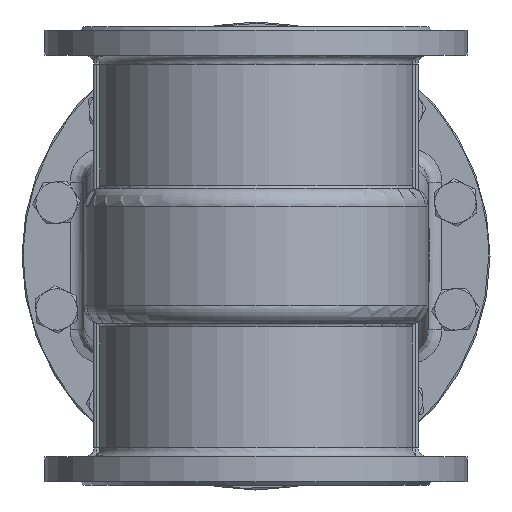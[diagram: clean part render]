
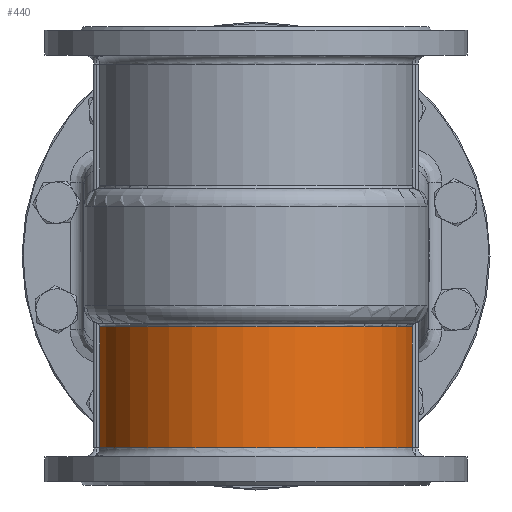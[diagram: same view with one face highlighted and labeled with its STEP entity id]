
A CAD part, front view. The second image highlights one B-rep face of the part: STEP entity #440.
In plain terms, the highlighted cylindrical face has radius 172.5 mm (diameter 345 mm), a partial arc.
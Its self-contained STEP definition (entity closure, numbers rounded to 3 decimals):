
#440=ADVANCED_FACE('',(#11666),#11668,.T.);
#11666=FACE_BOUND('',#11667,.T.);
#11667=EDGE_LOOP('',(#23744,#23745,#23746,#23747));
#11668=CYLINDRICAL_SURFACE('',#11669,172.5);
#11669=AXIS2_PLACEMENT_3D('',#11670,#11671,#11672);
#11670=CARTESIAN_POINT('',(0.,0.,-211.5));
#11671=DIRECTION('',(0.,0.,1.));
#11672=DIRECTION('',(1.,0.,0.));
#23744=ORIENTED_EDGE('',*,*,#29650,.F.);
#23745=ORIENTED_EDGE('',*,*,#29686,.T.);
#23746=ORIENTED_EDGE('',*,*,#29687,.F.);
#23747=ORIENTED_EDGE('',*,*,#29688,.F.);
#29650=EDGE_CURVE('',#32622,#32623,#32624,.F.);
#29686=EDGE_CURVE('',#32622,#32683,#32684,.T.);
#29687=EDGE_CURVE('',#32685,#32683,#32686,.T.);
#29688=EDGE_CURVE('',#32623,#32685,#32687,.T.);
#32622=VERTEX_POINT('',#37629);
#32623=VERTEX_POINT('',#37630);
#32624=CIRCLE('',#37631,172.5);
#32683=VERTEX_POINT('',#38026);
#32684=LINE('',#38027,#38028);
#32685=VERTEX_POINT('',#38030);
#32686=CIRCLE('',#38031,172.5);
#32687=LINE('',#38035,#38036);
#37629=CARTESIAN_POINT('',(170.491,-26.25,-209.));
#37630=CARTESIAN_POINT('',(-170.491,-26.25,-209.));
#37631=AXIS2_PLACEMENT_3D('',#37632,#37633,#37634);
#37632=CARTESIAN_POINT('',(0.,0.,-209.));
#37633=DIRECTION('',(0.,0.,1.));
#37634=DIRECTION('',(-0.988,-0.152,0.));
#38026=CARTESIAN_POINT('',(170.491,-26.25,-77.238));
#38027=CARTESIAN_POINT('',(170.491,-26.25,-209.));
#38028=VECTOR('',#38029,1.);
#38029=DIRECTION('',(0.,0.,1.));
#38030=CARTESIAN_POINT('',(-170.491,-26.25,-77.238));
#38031=AXIS2_PLACEMENT_3D('',#38032,#38033,#38034);
#38032=CARTESIAN_POINT('',(0.,0.,-77.238));
#38033=DIRECTION('',(0.,0.,1.));
#38034=DIRECTION('',(-0.988,-0.152,0.));
#38035=CARTESIAN_POINT('',(-170.491,-26.25,-209.));
#38036=VECTOR('',#38037,1.);
#38037=DIRECTION('',(0.,0.,1.));
